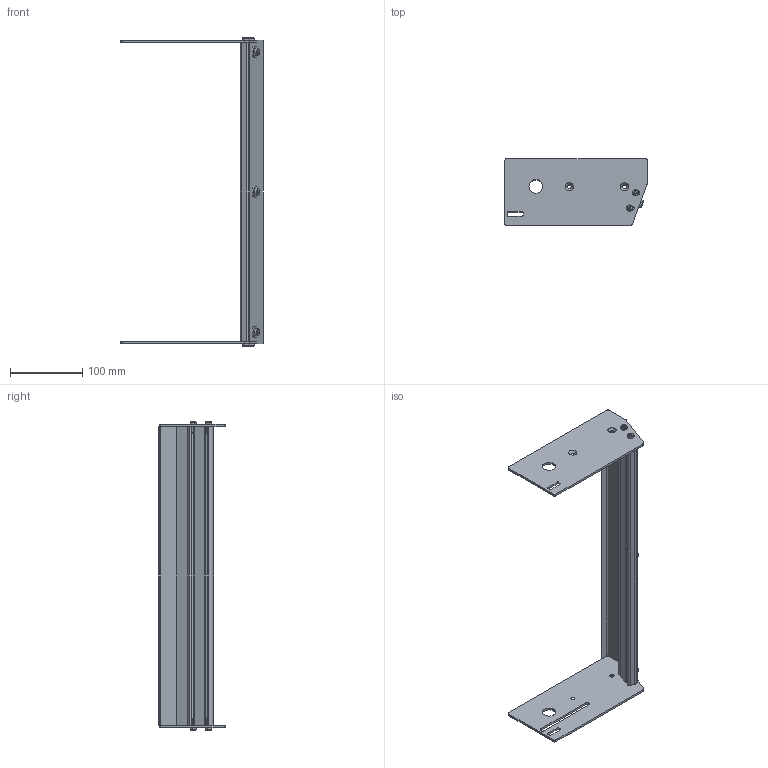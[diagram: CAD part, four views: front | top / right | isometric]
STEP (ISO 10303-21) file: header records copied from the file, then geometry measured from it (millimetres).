
FILE_DESCRIPTION((''),'2;1');
FILE_NAME('351199-16_ASM','2023-03-15T',('jenni.wallner'),(''),'PRO/ENGINEER BY PARAMETRIC TECHNOLOGY CORPORATION, 2012420','PRO/ENGINEER BY PARAMETRIC TECHNOLOGY CORPORATION, 2012420','');
FILE_SCHEMA(('CONFIG_CONTROL_DESIGN'));
Length unit declared in the file: inch
Products named in the file (10): 9506XXM_950612M; 605279P; 9505XXM_950512M; 351203-WW_351203-16; 351200_DEFAULT_AS_MACHINED_; 990603M; 351201; 351202-WW_351202-16; ASM0001_ASM; 351199-16_ASM
Assembly tree (18 placements, depth 3):
  351199-16_ASM
    ASM0001_ASM
      9506XXM_950612M  x3
      605279P  x3
      9505XXM_950512M  x4
      351203-WW_351203-16
      351200_DEFAULT_AS_MACHINED_
      990603M  x3
      351201
      351202-WW_351202-16
Bounding box: 196.11 x 93.08 x 425.49 mm (x, y, z)
Volume: 268263.1 mm3; surface area: 213961.6 mm2
Topology: 17 solids, 17 shells, 378 faces, 902 edges, 572 vertices
Faces by surface type: plane 170, cylinder 132, cone 76
Entity records: 7712 total; most frequent: CARTESIAN_POINT 1427, DIRECTION 1371, ORIENTED_EDGE 1206, EDGE_CURVE 603, AXIS2_PLACEMENT_3D 514, VERTEX_POINT 392, VECTOR 343, LINE 343
